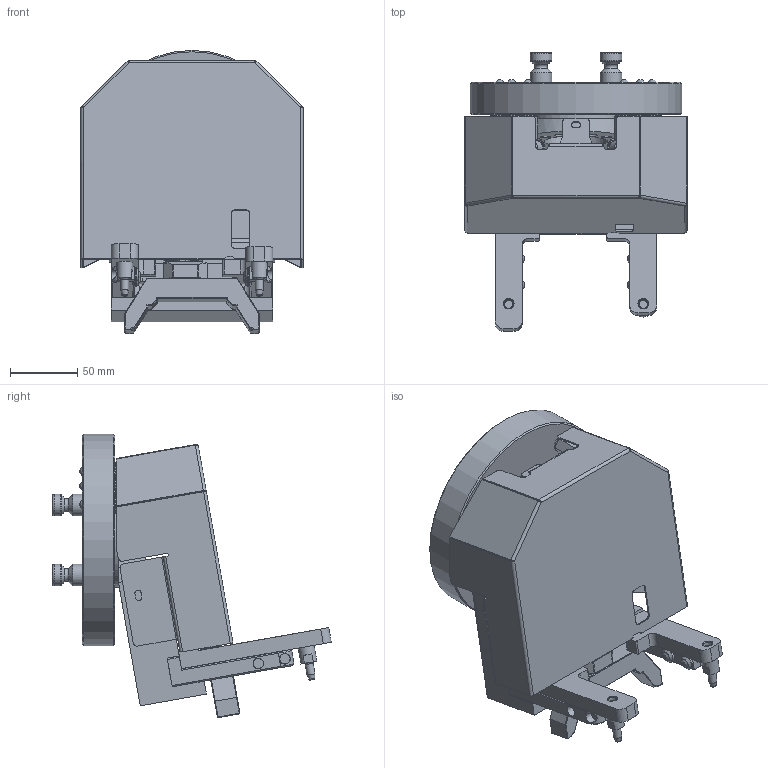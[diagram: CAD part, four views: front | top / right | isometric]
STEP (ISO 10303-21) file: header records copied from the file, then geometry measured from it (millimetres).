
FILE_DESCRIPTION (( 'STEP AP214' ), '1' );
FILE_NAME ('66955.STEP', '2025-09-26T11:44:54', ( '' ), ( '' ), 'SwSTEP 2.0', 'SolidWorks 2021', '' );
FILE_SCHEMA (( 'AUTOMOTIVE_DESIGN' ));
Length unit declared in the file: millimetre
Products named in the file (1): 66955
Bounding box: 165 x 206.94 x 210.38 mm (x, y, z)
Volume: 1073800.6 mm3; surface area: 320369 mm2
Topology: 42 solids, 42 shells, 1659 faces, 4002 edges, 2468 vertices
Faces by surface type: plane 748, cylinder 499, cone 262, bspline 112, torus 32, sphere 6
Full cylindrical faces by diameter (mm): 2.5 x8, 3 x8, 3.242 x8, 3.3 x10, 4 x13, 4.006 x1, 4.134 x2, 4.5 x11, 5 x5, 6 x13, 6.7 x6, 6.8 x6, 7 x2, 7.2 x10, 7.8 x4, 7.88 x2, 8 x22, 8.008 x2, 8.02 x4, 8.5 x4, 8.566 x6, 9 x1, 9.2 x4, 9.45 x2, 9.728 x6, 10.3 x2, 10.5 x2, 11 x8, 12 x6, 12.006 x4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
Entity records: 65923 total; most frequent: CARTESIAN_POINT 11905, DIRECTION 7249, ORIENTED_EDGE 6748, EDGE_CURVE 3374, AXIS2_PLACEMENT_3D 2806, VERTEX_POINT 2321, EDGE_LOOP 2261, FACE_OUTER_BOUND 1908
